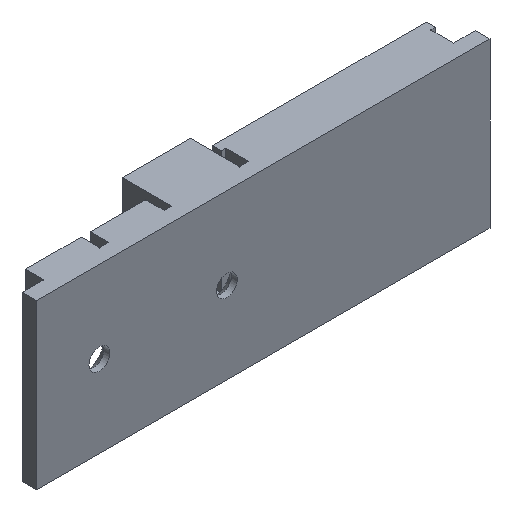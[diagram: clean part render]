
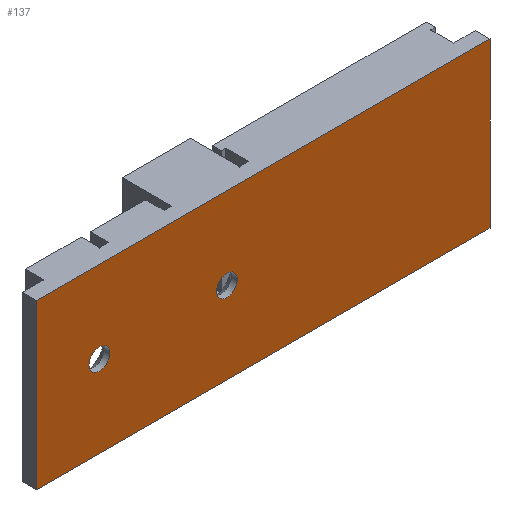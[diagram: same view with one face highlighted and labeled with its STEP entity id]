
A CAD part, isometric view. The second image highlights one B-rep face of the part: STEP entity #137.
In plain terms, the highlighted planar face has unit normal (0, -1, 0).
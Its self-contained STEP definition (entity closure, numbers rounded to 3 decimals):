
#21 = EDGE_CURVE('',#22,#24,#26,.T.);
#22 = VERTEX_POINT('',#23);
#23 = CARTESIAN_POINT('',(-24.9,16.5,-71.5));
#24 = VERTEX_POINT('',#25);
#25 = CARTESIAN_POINT('',(-24.9,16.5,-53.5));
#26 = SURFACE_CURVE('',#27,(#31,#43),.PCURVE_S1.);
#27 = LINE('',#28,#29);
#28 = CARTESIAN_POINT('',(-24.9,16.5,-71.5));
#29 = VECTOR('',#30,1.);
#30 = DIRECTION('',(0.,0.,1.));
#31 = PCURVE('',#32,#37);
#32 = PLANE('',#33);
#33 = AXIS2_PLACEMENT_3D('',#34,#35,#36);
#34 = CARTESIAN_POINT('',(-24.9,16.5,-71.5));
#35 = DIRECTION('',(1.,0.,-0.));
#36 = DIRECTION('',(0.,0.,1.));
#37 = DEFINITIONAL_REPRESENTATION('',(#38),#42);
#38 = LINE('',#39,#40);
#39 = CARTESIAN_POINT('',(0.,0.));
#40 = VECTOR('',#41,1.);
#41 = DIRECTION('',(1.,0.));
#42 = ( GEOMETRIC_REPRESENTATION_CONTEXT(2) 
PARAMETRIC_REPRESENTATION_CONTEXT() REPRESENTATION_CONTEXT('2D SPACE',''
  ) );
#43 = PCURVE('',#44,#49);
#44 = PLANE('',#45);
#45 = AXIS2_PLACEMENT_3D('',#46,#47,#48);
#46 = CARTESIAN_POINT('',(-24.9,16.5,-71.5));
#47 = DIRECTION('',(-0.,1.,0.));
#48 = DIRECTION('',(0.,0.,1.));
#49 = DEFINITIONAL_REPRESENTATION('',(#50),#54);
#50 = LINE('',#51,#52);
#51 = CARTESIAN_POINT('',(0.,0.));
#52 = VECTOR('',#53,1.);
#53 = DIRECTION('',(1.,0.));
#54 = ( GEOMETRIC_REPRESENTATION_CONTEXT(2) 
PARAMETRIC_REPRESENTATION_CONTEXT() REPRESENTATION_CONTEXT('2D SPACE',''
  ) );
#72 = PLANE('',#73);
#73 = AXIS2_PLACEMENT_3D('',#74,#75,#76);
#74 = CARTESIAN_POINT('',(-24.9,16.5,-71.5));
#75 = DIRECTION('',(0.,0.,1.));
#76 = DIRECTION('',(1.,0.,-0.));
#126 = PLANE('',#127);
#127 = AXIS2_PLACEMENT_3D('',#128,#129,#130);
#128 = CARTESIAN_POINT('',(-24.9,16.5,-53.5));
#129 = DIRECTION('',(0.,0.,1.));
#130 = DIRECTION('',(1.,0.,-0.));
#137 = ADVANCED_FACE('',(#138,#213,#248),#44,.F.);
#138 = FACE_BOUND('',#139,.F.);
#139 = EDGE_LOOP('',(#140,#163,#164,#187));
#140 = ORIENTED_EDGE('',*,*,#141,.F.);
#141 = EDGE_CURVE('',#22,#142,#144,.T.);
#142 = VERTEX_POINT('',#143);
#143 = CARTESIAN_POINT('',(24.9,16.5,-71.5));
#144 = SURFACE_CURVE('',#145,(#149,#156),.PCURVE_S1.);
#145 = LINE('',#146,#147);
#146 = CARTESIAN_POINT('',(-24.9,16.5,-71.5));
#147 = VECTOR('',#148,1.);
#148 = DIRECTION('',(1.,0.,-0.));
#149 = PCURVE('',#44,#150);
#150 = DEFINITIONAL_REPRESENTATION('',(#151),#155);
#151 = LINE('',#152,#153);
#152 = CARTESIAN_POINT('',(0.,0.));
#153 = VECTOR('',#154,1.);
#154 = DIRECTION('',(0.,1.));
#155 = ( GEOMETRIC_REPRESENTATION_CONTEXT(2) 
PARAMETRIC_REPRESENTATION_CONTEXT() REPRESENTATION_CONTEXT('2D SPACE',''
  ) );
#156 = PCURVE('',#72,#157);
#157 = DEFINITIONAL_REPRESENTATION('',(#158),#162);
#158 = LINE('',#159,#160);
#159 = CARTESIAN_POINT('',(0.,0.));
#160 = VECTOR('',#161,1.);
#161 = DIRECTION('',(1.,0.));
#162 = ( GEOMETRIC_REPRESENTATION_CONTEXT(2) 
PARAMETRIC_REPRESENTATION_CONTEXT() REPRESENTATION_CONTEXT('2D SPACE',''
  ) );
#163 = ORIENTED_EDGE('',*,*,#21,.T.);
#164 = ORIENTED_EDGE('',*,*,#165,.T.);
#165 = EDGE_CURVE('',#24,#166,#168,.T.);
#166 = VERTEX_POINT('',#167);
#167 = CARTESIAN_POINT('',(24.9,16.5,-53.5));
#168 = SURFACE_CURVE('',#169,(#173,#180),.PCURVE_S1.);
#169 = LINE('',#170,#171);
#170 = CARTESIAN_POINT('',(-24.9,16.5,-53.5));
#171 = VECTOR('',#172,1.);
#172 = DIRECTION('',(1.,0.,-0.));
#173 = PCURVE('',#44,#174);
#174 = DEFINITIONAL_REPRESENTATION('',(#175),#179);
#175 = LINE('',#176,#177);
#176 = CARTESIAN_POINT('',(18.,0.));
#177 = VECTOR('',#178,1.);
#178 = DIRECTION('',(0.,1.));
#179 = ( GEOMETRIC_REPRESENTATION_CONTEXT(2) 
PARAMETRIC_REPRESENTATION_CONTEXT() REPRESENTATION_CONTEXT('2D SPACE',''
  ) );
#180 = PCURVE('',#126,#181);
#181 = DEFINITIONAL_REPRESENTATION('',(#182),#186);
#182 = LINE('',#183,#184);
#183 = CARTESIAN_POINT('',(0.,0.));
#184 = VECTOR('',#185,1.);
#185 = DIRECTION('',(1.,0.));
#186 = ( GEOMETRIC_REPRESENTATION_CONTEXT(2) 
PARAMETRIC_REPRESENTATION_CONTEXT() REPRESENTATION_CONTEXT('2D SPACE',''
  ) );
#187 = ORIENTED_EDGE('',*,*,#188,.F.);
#188 = EDGE_CURVE('',#142,#166,#189,.T.);
#189 = SURFACE_CURVE('',#190,(#194,#201),.PCURVE_S1.);
#190 = LINE('',#191,#192);
#191 = CARTESIAN_POINT('',(24.9,16.5,-71.5));
#192 = VECTOR('',#193,1.);
#193 = DIRECTION('',(0.,0.,1.));
#194 = PCURVE('',#44,#195);
#195 = DEFINITIONAL_REPRESENTATION('',(#196),#200);
#196 = LINE('',#197,#198);
#197 = CARTESIAN_POINT('',(0.,49.8));
#198 = VECTOR('',#199,1.);
#199 = DIRECTION('',(1.,0.));
#200 = ( GEOMETRIC_REPRESENTATION_CONTEXT(2) 
PARAMETRIC_REPRESENTATION_CONTEXT() REPRESENTATION_CONTEXT('2D SPACE',''
  ) );
#201 = PCURVE('',#202,#207);
#202 = PLANE('',#203);
#203 = AXIS2_PLACEMENT_3D('',#204,#205,#206);
#204 = CARTESIAN_POINT('',(24.9,16.5,-71.5));
#205 = DIRECTION('',(1.,0.,-0.));
#206 = DIRECTION('',(0.,0.,1.));
#207 = DEFINITIONAL_REPRESENTATION('',(#208),#212);
#208 = LINE('',#209,#210);
#209 = CARTESIAN_POINT('',(0.,0.));
#210 = VECTOR('',#211,1.);
#211 = DIRECTION('',(1.,0.));
#212 = ( GEOMETRIC_REPRESENTATION_CONTEXT(2) 
PARAMETRIC_REPRESENTATION_CONTEXT() REPRESENTATION_CONTEXT('2D SPACE',''
  ) );
#213 = FACE_BOUND('',#214,.F.);
#214 = EDGE_LOOP('',(#215));
#215 = ORIENTED_EDGE('',*,*,#216,.T.);
#216 = EDGE_CURVE('',#217,#217,#219,.T.);
#217 = VERTEX_POINT('',#218);
#218 = CARTESIAN_POINT('',(-16.85,16.5,-62.5));
#219 = SURFACE_CURVE('',#220,(#225,#236),.PCURVE_S1.);
#220 = CIRCLE('',#221,1.15);
#221 = AXIS2_PLACEMENT_3D('',#222,#223,#224);
#222 = CARTESIAN_POINT('',(-18.,16.5,-62.5));
#223 = DIRECTION('',(0.,-1.,0.));
#224 = DIRECTION('',(1.,0.,0.));
#225 = PCURVE('',#44,#226);
#226 = DEFINITIONAL_REPRESENTATION('',(#227),#235);
#227 = ( BOUNDED_CURVE() B_SPLINE_CURVE(2,(#228,#229,#230,#231,#232,#233
,#234),.UNSPECIFIED.,.T.,.F.) B_SPLINE_CURVE_WITH_KNOTS((1,2,2,2,2,1),(
    -2.094,0.,2.094,4.189,6.283,
8.378),.UNSPECIFIED.) CURVE() GEOMETRIC_REPRESENTATION_ITEM() 
RATIONAL_B_SPLINE_CURVE((1.,0.5,1.,0.5,1.,0.5,1.)) REPRESENTATION_ITEM(
  '') );
#228 = CARTESIAN_POINT('',(9.,8.05));
#229 = CARTESIAN_POINT('',(10.992,8.05));
#230 = CARTESIAN_POINT('',(9.996,6.325));
#231 = CARTESIAN_POINT('',(9.,4.6));
#232 = CARTESIAN_POINT('',(8.004,6.325));
#233 = CARTESIAN_POINT('',(7.008,8.05));
#234 = CARTESIAN_POINT('',(9.,8.05));
#235 = ( GEOMETRIC_REPRESENTATION_CONTEXT(2) 
PARAMETRIC_REPRESENTATION_CONTEXT() REPRESENTATION_CONTEXT('2D SPACE',''
  ) );
#236 = PCURVE('',#237,#242);
#237 = CYLINDRICAL_SURFACE('',#238,1.15);
#238 = AXIS2_PLACEMENT_3D('',#239,#240,#241);
#239 = CARTESIAN_POINT('',(-18.,18.6,-62.5));
#240 = DIRECTION('',(0.,-1.,0.));
#241 = DIRECTION('',(1.,0.,0.));
#242 = DEFINITIONAL_REPRESENTATION('',(#243),#247);
#243 = LINE('',#244,#245);
#244 = CARTESIAN_POINT('',(0.,2.1));
#245 = VECTOR('',#246,1.);
#246 = DIRECTION('',(1.,0.));
#247 = ( GEOMETRIC_REPRESENTATION_CONTEXT(2) 
PARAMETRIC_REPRESENTATION_CONTEXT() REPRESENTATION_CONTEXT('2D SPACE',''
  ) );
#248 = FACE_BOUND('',#249,.F.);
#249 = EDGE_LOOP('',(#250));
#250 = ORIENTED_EDGE('',*,*,#251,.T.);
#251 = EDGE_CURVE('',#252,#252,#254,.T.);
#252 = VERTEX_POINT('',#253);
#253 = CARTESIAN_POINT('',(-2.85,16.5,-62.5));
#254 = SURFACE_CURVE('',#255,(#260,#271),.PCURVE_S1.);
#255 = CIRCLE('',#256,1.15);
#256 = AXIS2_PLACEMENT_3D('',#257,#258,#259);
#257 = CARTESIAN_POINT('',(-4.,16.5,-62.5));
#258 = DIRECTION('',(0.,-1.,0.));
#259 = DIRECTION('',(1.,0.,0.));
#260 = PCURVE('',#44,#261);
#261 = DEFINITIONAL_REPRESENTATION('',(#262),#270);
#262 = ( BOUNDED_CURVE() B_SPLINE_CURVE(2,(#263,#264,#265,#266,#267,#268
,#269),.UNSPECIFIED.,.T.,.F.) B_SPLINE_CURVE_WITH_KNOTS((1,2,2,2,2,1),(
    -2.094,0.,2.094,4.189,6.283,
8.378),.UNSPECIFIED.) CURVE() GEOMETRIC_REPRESENTATION_ITEM() 
RATIONAL_B_SPLINE_CURVE((1.,0.5,1.,0.5,1.,0.5,1.)) REPRESENTATION_ITEM(
  '') );
#263 = CARTESIAN_POINT('',(9.,22.05));
#264 = CARTESIAN_POINT('',(10.992,22.05));
#265 = CARTESIAN_POINT('',(9.996,20.325));
#266 = CARTESIAN_POINT('',(9.,18.6));
#267 = CARTESIAN_POINT('',(8.004,20.325));
#268 = CARTESIAN_POINT('',(7.008,22.05));
#269 = CARTESIAN_POINT('',(9.,22.05));
#270 = ( GEOMETRIC_REPRESENTATION_CONTEXT(2) 
PARAMETRIC_REPRESENTATION_CONTEXT() REPRESENTATION_CONTEXT('2D SPACE',''
  ) );
#271 = PCURVE('',#272,#277);
#272 = CYLINDRICAL_SURFACE('',#273,1.15);
#273 = AXIS2_PLACEMENT_3D('',#274,#275,#276);
#274 = CARTESIAN_POINT('',(-4.,18.6,-62.5));
#275 = DIRECTION('',(0.,-1.,0.));
#276 = DIRECTION('',(1.,0.,0.));
#277 = DEFINITIONAL_REPRESENTATION('',(#278),#282);
#278 = LINE('',#279,#280);
#279 = CARTESIAN_POINT('',(0.,2.1));
#280 = VECTOR('',#281,1.);
#281 = DIRECTION('',(1.,0.));
#282 = ( GEOMETRIC_REPRESENTATION_CONTEXT(2) 
PARAMETRIC_REPRESENTATION_CONTEXT() REPRESENTATION_CONTEXT('2D SPACE',''
  ) );
